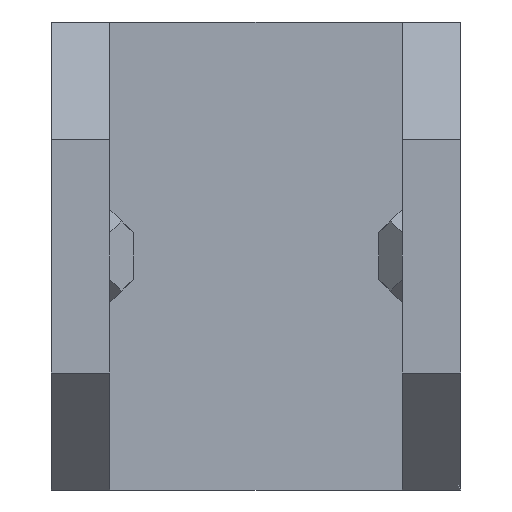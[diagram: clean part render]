
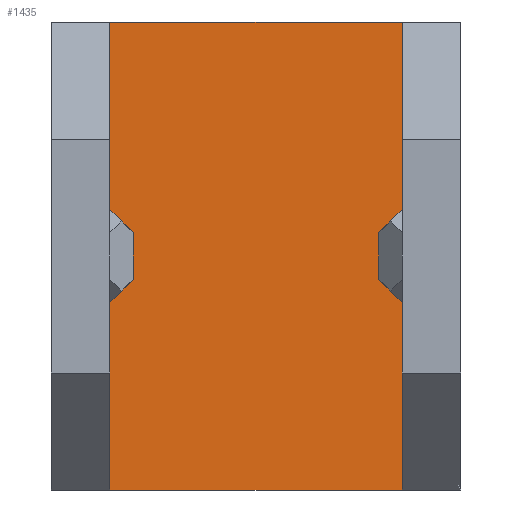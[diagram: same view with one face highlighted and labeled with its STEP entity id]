
A CAD part, left-side view. The second image highlights one B-rep face of the part: STEP entity #1435.
In plain terms, the highlighted planar face has unit normal (-1, 0, 0).
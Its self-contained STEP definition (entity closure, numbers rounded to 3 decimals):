
#3 = CARTESIAN_POINT ( 'NONE',  ( -1., 30., 20. ) ) ;
#10 = LINE ( 'NONE', #153, #859 ) ;
#41 = DIRECTION ( 'NONE',  ( 1., 0., 0. ) ) ;
#90 = VERTEX_POINT ( 'NONE', #1009 ) ;
#126 = DIRECTION ( 'NONE',  ( 0., 1., 0. ) ) ;
#153 = CARTESIAN_POINT ( 'NONE',  ( -1., 30., -20. ) ) ;
#182 = VECTOR ( 'NONE', #495, 1000. ) ;
#318 = DIRECTION ( 'NONE',  ( 0., 0., -1. ) ) ;
#328 = AXIS2_PLACEMENT_3D ( 'NONE', #1420, #41, #126 ) ;
#389 = CARTESIAN_POINT ( 'NONE',  ( -1., 5., 20. ) ) ;
#398 = LINE ( 'NONE', #550, #1461 ) ;
#427 = VECTOR ( 'NONE', #318, 1000. ) ;
#464 = ORIENTED_EDGE ( 'NONE', *, *, #641, .F. ) ;
#474 = VERTEX_POINT ( 'NONE', #3 ) ;
#495 = DIRECTION ( 'NONE',  ( 0., -1., 0. ) ) ;
#550 = CARTESIAN_POINT ( 'NONE',  ( -1., 30., 20. ) ) ;
#564 = VERTEX_POINT ( 'NONE', #389 ) ;
#614 = PLANE ( 'NONE',  #328 ) ;
#621 = CARTESIAN_POINT ( 'NONE',  ( -1., 30., 20. ) ) ;
#641 = EDGE_CURVE ( 'NONE', #474, #564, #1100, .T. ) ;
#855 = VERTEX_POINT ( 'NONE', #967 ) ;
#859 = VECTOR ( 'NONE', #1187, 1000. ) ;
#865 = EDGE_LOOP ( 'NONE', ( #1472, #979, #464, #1253 ) ) ;
#936 = EDGE_CURVE ( 'NONE', #564, #855, #1141, .T. ) ;
#967 = CARTESIAN_POINT ( 'NONE',  ( -1., 5., -20. ) ) ;
#972 = EDGE_CURVE ( 'NONE', #474, #90, #398, .T. ) ;
#979 = ORIENTED_EDGE ( 'NONE', *, *, #936, .F. ) ;
#1009 = CARTESIAN_POINT ( 'NONE',  ( -1., 30., -20. ) ) ;
#1100 = LINE ( 'NONE', #621, #182 ) ;
#1115 = DIRECTION ( 'NONE',  ( 0., 0., -1. ) ) ;
#1138 = FACE_OUTER_BOUND ( 'NONE', #865, .T. ) ;
#1141 = LINE ( 'NONE', #1460, #427 ) ;
#1187 = DIRECTION ( 'NONE',  ( 0., -1., 0. ) ) ;
#1253 = ORIENTED_EDGE ( 'NONE', *, *, #972, .T. ) ;
#1341 = EDGE_CURVE ( 'NONE', #90, #855, #10, .T. ) ;
#1420 = CARTESIAN_POINT ( 'NONE',  ( -1., 30., 20. ) ) ;
#1435 = ADVANCED_FACE ( 'NONE', ( #1138 ), #614, .F. ) ;
#1460 = CARTESIAN_POINT ( 'NONE',  ( -1., 5., 20. ) ) ;
#1461 = VECTOR ( 'NONE', #1115, 1000. ) ;
#1472 = ORIENTED_EDGE ( 'NONE', *, *, #1341, .T. ) ;
